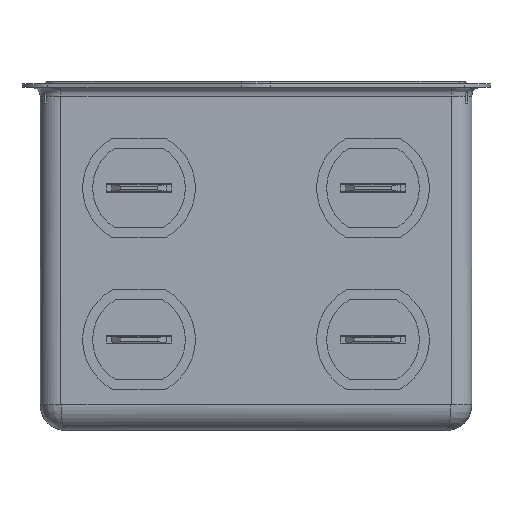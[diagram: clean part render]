
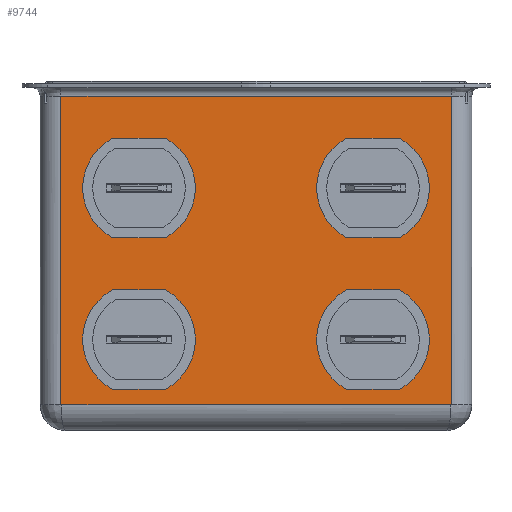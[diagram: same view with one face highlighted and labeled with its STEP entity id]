
A CAD part, left-side view. The second image highlights one B-rep face of the part: STEP entity #9744.
In plain terms, the highlighted planar face has unit normal (-1, 0, 0).
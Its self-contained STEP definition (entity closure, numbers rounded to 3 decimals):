
#3909=CARTESIAN_POINT('',(-32.4,22.5,38.6));
#3910=VERTEX_POINT('',#3909);
#3963=CARTESIAN_POINT('',(-32.4,-22.5,38.6));
#3964=VERTEX_POINT('',#3963);
#3972=CARTESIAN_POINT('',(-32.4,-22.5,3.));
#3973=VERTEX_POINT('',#3972);
#3974=CARTESIAN_POINT('',(-32.4,-22.5,38.6));
#3975=DIRECTION('',(0.0,0.0,-1.0));
#3976=VECTOR('',#3975,35.6);
#3977=LINE('',#3974,#3976);
#3978=EDGE_CURVE('',#3964,#3973,#3977,.T.);
#9461=CARTESIAN_POINT('',(-32.4,16.531,16.25));
#9462=VERTEX_POINT('',#9461);
#9463=CARTESIAN_POINT('',(-32.4,10.469,16.25));
#9464=VERTEX_POINT('',#9463);
#9465=CARTESIAN_POINT('',(-32.4,16.531,16.25));
#9466=DIRECTION('',(0.0,-1.0,0.));
#9467=VECTOR('',#9466,6.062);
#9468=LINE('',#9465,#9467);
#9469=EDGE_CURVE('',#9462,#9464,#9468,.T.);
#9501=CARTESIAN_POINT('',(-32.4,16.531,4.75));
#9502=VERTEX_POINT('',#9501);
#9503=CARTESIAN_POINT('',(-32.4,13.5,10.5));
#9504=DIRECTION('',(1.0,0.0,0.0));
#9505=DIRECTION('',(0.0,0.466,-0.885));
#9506=AXIS2_PLACEMENT_3D('',#9503,#9504,#9505);
#9507=CIRCLE('',#9506,6.5);
#9508=EDGE_CURVE('',#9502,#9462,#9507,.T.);
#9534=CARTESIAN_POINT('',(-32.4,10.469,4.75));
#9535=VERTEX_POINT('',#9534);
#9536=CARTESIAN_POINT('',(-32.4,10.469,4.75));
#9537=DIRECTION('',(0.0,1.0,0.));
#9538=VECTOR('',#9537,6.062);
#9539=LINE('',#9536,#9538);
#9540=EDGE_CURVE('',#9535,#9502,#9539,.T.);
#9565=CARTESIAN_POINT('',(-32.4,13.5,10.5));
#9566=DIRECTION('',(1.,0.0,0.0));
#9567=DIRECTION('',(0.0,-0.466,0.885));
#9568=AXIS2_PLACEMENT_3D('',#9565,#9566,#9567);
#9569=CIRCLE('',#9568,6.5);
#9570=EDGE_CURVE('',#9464,#9535,#9569,.T.);
#9602=CARTESIAN_POINT('',(-32.4,0.0,0.0));
#9603=DIRECTION('',(-1.0,0.0,0.0));
#9604=DIRECTION('',(0.0,0.0,1.0));
#9605=AXIS2_PLACEMENT_3D('',#9602,#9603,#9604);
#9606=PLANE('',#9605);
#9607=CARTESIAN_POINT('',(-32.4,22.5,38.6));
#9608=DIRECTION('',(0.0,-1.0,0.0));
#9609=VECTOR('',#9608,45.0);
#9610=LINE('',#9607,#9609);
#9611=EDGE_CURVE('',#3910,#3964,#9610,.T.);
#9612=ORIENTED_EDGE('',*,*,#9611,.F.);
#9613=CARTESIAN_POINT('',(-32.4,22.5,3.));
#9614=VERTEX_POINT('',#9613);
#9615=CARTESIAN_POINT('',(-32.4,22.5,3.));
#9616=DIRECTION('',(0.0,0.0,1.0));
#9617=VECTOR('',#9616,35.6);
#9618=LINE('',#9615,#9617);
#9619=EDGE_CURVE('',#9614,#3910,#9618,.T.);
#9620=ORIENTED_EDGE('',*,*,#9619,.F.);
#9621=CARTESIAN_POINT('',(-32.4,-22.5,3.));
#9622=DIRECTION('',(0.0,1.0,0.0));
#9623=VECTOR('',#9622,45.);
#9624=LINE('',#9621,#9623);
#9625=EDGE_CURVE('',#3973,#9614,#9624,.T.);
#9626=ORIENTED_EDGE('',*,*,#9625,.F.);
#9627=ORIENTED_EDGE('',*,*,#3978,.F.);
#9628=EDGE_LOOP('',(#9612,#9620,#9626,#9627));
#9629=FACE_OUTER_BOUND('',#9628,.T.);
#9630=ORIENTED_EDGE('',*,*,#9469,.T.);
#9631=ORIENTED_EDGE('',*,*,#9570,.T.);
#9632=ORIENTED_EDGE('',*,*,#9540,.T.);
#9633=ORIENTED_EDGE('',*,*,#9508,.T.);
#9634=EDGE_LOOP('',(#9630,#9631,#9632,#9633));
#9635=FACE_BOUND('',#9634,.T.);
#9636=CARTESIAN_POINT('',(-32.4,-10.469,16.25));
#9637=VERTEX_POINT('',#9636);
#9638=CARTESIAN_POINT('',(-32.4,-16.531,16.25));
#9639=VERTEX_POINT('',#9638);
#9640=CARTESIAN_POINT('',(-32.4,-10.469,16.25));
#9641=DIRECTION('',(0.0,-1.0,0.));
#9642=VECTOR('',#9641,6.062);
#9643=LINE('',#9640,#9642);
#9644=EDGE_CURVE('',#9637,#9639,#9643,.T.);
#9645=ORIENTED_EDGE('',*,*,#9644,.T.);
#9646=CARTESIAN_POINT('',(-32.4,-16.531,4.75));
#9647=VERTEX_POINT('',#9646);
#9648=CARTESIAN_POINT('',(-32.4,-13.5,10.5));
#9649=DIRECTION('',(1.0,0.0,0.0));
#9650=DIRECTION('',(0.0,-0.466,0.885));
#9651=AXIS2_PLACEMENT_3D('',#9648,#9649,#9650);
#9652=CIRCLE('',#9651,6.5);
#9653=EDGE_CURVE('',#9639,#9647,#9652,.T.);
#9654=ORIENTED_EDGE('',*,*,#9653,.T.);
#9655=CARTESIAN_POINT('',(-32.4,-10.469,4.75));
#9656=VERTEX_POINT('',#9655);
#9657=CARTESIAN_POINT('',(-32.4,-16.531,4.75));
#9658=DIRECTION('',(0.0,1.0,0.));
#9659=VECTOR('',#9658,6.062);
#9660=LINE('',#9657,#9659);
#9661=EDGE_CURVE('',#9647,#9656,#9660,.T.);
#9662=ORIENTED_EDGE('',*,*,#9661,.T.);
#9663=CARTESIAN_POINT('',(-32.4,-13.5,10.5));
#9664=DIRECTION('',(1.,0.0,0.0));
#9665=DIRECTION('',(0.0,0.466,-0.885));
#9666=AXIS2_PLACEMENT_3D('',#9663,#9664,#9665);
#9667=CIRCLE('',#9666,6.5);
#9668=EDGE_CURVE('',#9656,#9637,#9667,.T.);
#9669=ORIENTED_EDGE('',*,*,#9668,.T.);
#9670=EDGE_LOOP('',(#9645,#9654,#9662,#9669));
#9671=FACE_BOUND('',#9670,.T.);
#9672=CARTESIAN_POINT('',(-32.4,-10.469,33.75));
#9673=VERTEX_POINT('',#9672);
#9674=CARTESIAN_POINT('',(-32.4,-16.531,33.75));
#9675=VERTEX_POINT('',#9674);
#9676=CARTESIAN_POINT('',(-32.4,-10.469,33.75));
#9677=DIRECTION('',(0.0,-1.0,0.0));
#9678=VECTOR('',#9677,6.062);
#9679=LINE('',#9676,#9678);
#9680=EDGE_CURVE('',#9673,#9675,#9679,.T.);
#9681=ORIENTED_EDGE('',*,*,#9680,.T.);
#9682=CARTESIAN_POINT('',(-32.4,-16.531,22.25));
#9683=VERTEX_POINT('',#9682);
#9684=CARTESIAN_POINT('',(-32.4,-13.5,28.));
#9685=DIRECTION('',(1.,0.0,0.0));
#9686=DIRECTION('',(0.0,-0.466,0.885));
#9687=AXIS2_PLACEMENT_3D('',#9684,#9685,#9686);
#9688=CIRCLE('',#9687,6.5);
#9689=EDGE_CURVE('',#9675,#9683,#9688,.T.);
#9690=ORIENTED_EDGE('',*,*,#9689,.T.);
#9691=CARTESIAN_POINT('',(-32.4,-10.469,22.25));
#9692=VERTEX_POINT('',#9691);
#9693=CARTESIAN_POINT('',(-32.4,-16.531,22.25));
#9694=DIRECTION('',(0.0,1.0,0.0));
#9695=VECTOR('',#9694,6.062);
#9696=LINE('',#9693,#9695);
#9697=EDGE_CURVE('',#9683,#9692,#9696,.T.);
#9698=ORIENTED_EDGE('',*,*,#9697,.T.);
#9699=CARTESIAN_POINT('',(-32.4,-13.5,28.));
#9700=DIRECTION('',(1.,0.0,0.0));
#9701=DIRECTION('',(0.0,0.466,-0.885));
#9702=AXIS2_PLACEMENT_3D('',#9699,#9700,#9701);
#9703=CIRCLE('',#9702,6.5);
#9704=EDGE_CURVE('',#9692,#9673,#9703,.T.);
#9705=ORIENTED_EDGE('',*,*,#9704,.T.);
#9706=EDGE_LOOP('',(#9681,#9690,#9698,#9705));
#9707=FACE_BOUND('',#9706,.T.);
#9708=CARTESIAN_POINT('',(-32.4,16.531,33.75));
#9709=VERTEX_POINT('',#9708);
#9710=CARTESIAN_POINT('',(-32.4,10.469,33.75));
#9711=VERTEX_POINT('',#9710);
#9712=CARTESIAN_POINT('',(-32.4,16.531,33.75));
#9713=DIRECTION('',(0.0,-1.0,0.0));
#9714=VECTOR('',#9713,6.062);
#9715=LINE('',#9712,#9714);
#9716=EDGE_CURVE('',#9709,#9711,#9715,.T.);
#9717=ORIENTED_EDGE('',*,*,#9716,.T.);
#9718=CARTESIAN_POINT('',(-32.4,10.469,22.25));
#9719=VERTEX_POINT('',#9718);
#9720=CARTESIAN_POINT('',(-32.4,13.5,28.));
#9721=DIRECTION('',(1.,0.0,0.0));
#9722=DIRECTION('',(0.0,-0.466,0.885));
#9723=AXIS2_PLACEMENT_3D('',#9720,#9721,#9722);
#9724=CIRCLE('',#9723,6.5);
#9725=EDGE_CURVE('',#9711,#9719,#9724,.T.);
#9726=ORIENTED_EDGE('',*,*,#9725,.T.);
#9727=CARTESIAN_POINT('',(-32.4,16.531,22.25));
#9728=VERTEX_POINT('',#9727);
#9729=CARTESIAN_POINT('',(-32.4,10.469,22.25));
#9730=DIRECTION('',(0.0,1.0,0.0));
#9731=VECTOR('',#9730,6.062);
#9732=LINE('',#9729,#9731);
#9733=EDGE_CURVE('',#9719,#9728,#9732,.T.);
#9734=ORIENTED_EDGE('',*,*,#9733,.T.);
#9735=CARTESIAN_POINT('',(-32.4,13.5,28.));
#9736=DIRECTION('',(1.0,0.0,0.0));
#9737=DIRECTION('',(0.0,0.466,-0.885));
#9738=AXIS2_PLACEMENT_3D('',#9735,#9736,#9737);
#9739=CIRCLE('',#9738,6.5);
#9740=EDGE_CURVE('',#9728,#9709,#9739,.T.);
#9741=ORIENTED_EDGE('',*,*,#9740,.T.);
#9742=EDGE_LOOP('',(#9717,#9726,#9734,#9741));
#9743=FACE_BOUND('',#9742,.T.);
#9744=ADVANCED_FACE('',(#9629,#9635,#9671,#9707,#9743),#9606,.T.);
